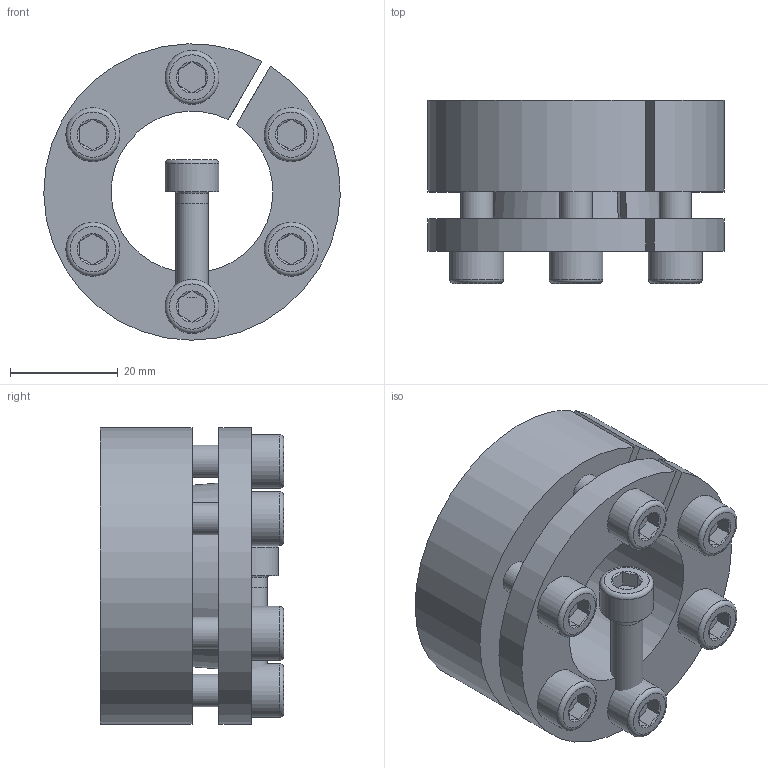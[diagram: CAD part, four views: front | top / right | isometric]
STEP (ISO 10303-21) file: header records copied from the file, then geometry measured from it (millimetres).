
FILE_DESCRIPTION( ( 'Unknown' ), '1' );
FILE_NAME( 'C:/Dokumente und Einstellungen/Sven/Desktop/homepage/cad - homepage/KBS13/KBS 13 - 30 x 55.stp', 'Unknown', ( 'Unknown' ), ( 'Unknown' ), 'XStep 1.0', 'Unknown', ' ' );
FILE_SCHEMA( ( 'automotive_design' ) );
Length unit declared in the file: millimetre
Products named in the file (3): Assem1; KBS 13 - 30 x 55; ISO EN DIN 4762 M6x20
Bounding box: 54.99 x 34 x 54.99 mm (x, y, z)
Volume: 76365.1 mm3; surface area: 36959.5 mm2
Topology: 9 solids, 9 shells, 223 faces, 457 edges, 280 vertices
Faces by surface type: plane 98, cylinder 58, cone 53, torus 14
Full cylindrical faces by diameter (mm): 5 x7, 6 x38, 10 x7
Entity records: 1618 total; most frequent: CARTESIAN_POINT 271, DIRECTION 244, ORIENTED_EDGE 178, AXIS2_PLACEMENT_3D 108, EDGE_LOOP 96, EDGE_CURVE 89, FACE_OUTER_BOUND 67, VERTEX_POINT 67
